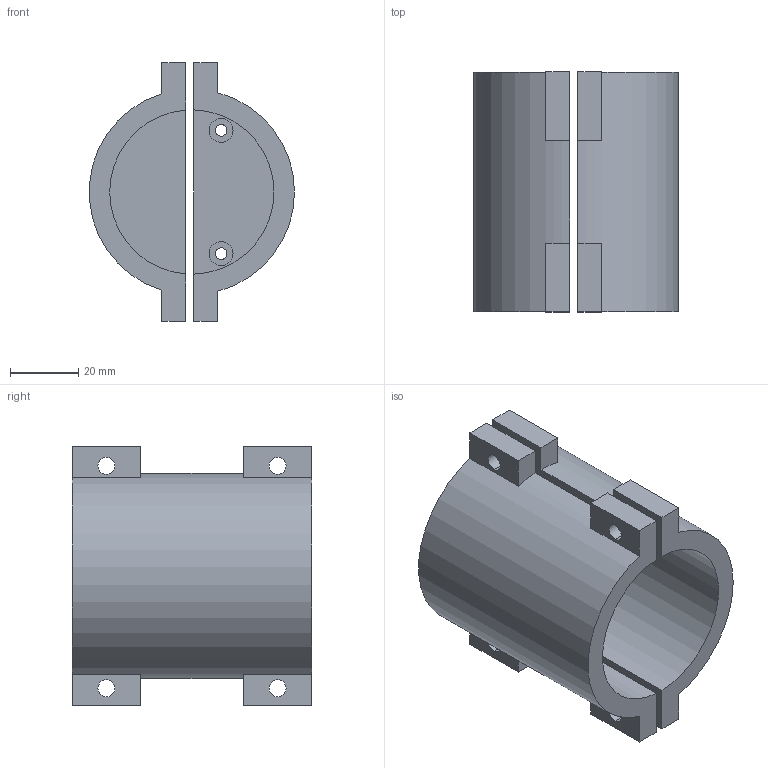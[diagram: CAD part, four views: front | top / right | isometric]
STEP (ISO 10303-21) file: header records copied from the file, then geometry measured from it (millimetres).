
FILE_DESCRIPTION (( 'STEP AP214' ), '1' );
FILE_NAME ('Sostenedor de destapa cervezas.STEP', '2019-05-12T21:38:21', ( '' ), ( '' ), 'SwSTEP 2.0', 'SolidWorks 2018', '' );
FILE_SCHEMA (( 'AUTOMOTIVE_DESIGN' ));
Length unit declared in the file: millimetre
Products named in the file (1): Sostenedor de destapa cervezas
Bounding box: 59.89 x 70 x 75.64 mm (x, y, z)
Volume: 94084.9 mm3; surface area: 34042.2 mm2
Topology: 2 solids, 2 shells, 62 faces, 168 edges, 112 vertices
Faces by surface type: plane 34, cylinder 28
Entity records: 2059 total; most frequent: DIRECTION 358, CARTESIAN_POINT 343, ORIENTED_EDGE 336, EDGE_CURVE 168, AXIS2_PLACEMENT_3D 127, VERTEX_POINT 112, VECTOR 104, LINE 104
